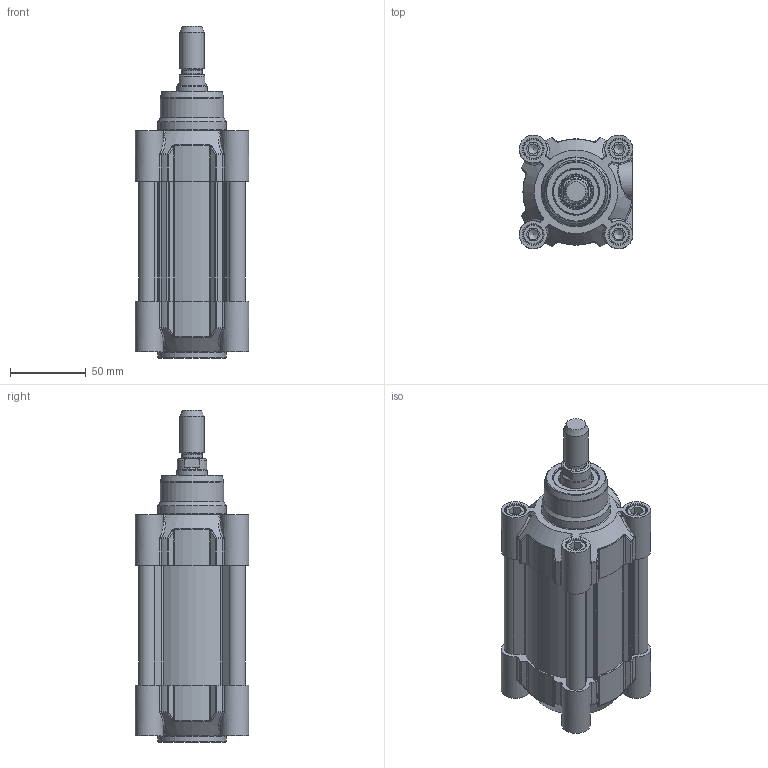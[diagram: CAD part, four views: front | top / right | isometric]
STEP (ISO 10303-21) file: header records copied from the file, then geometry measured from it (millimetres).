
FILE_DESCRIPTION(/* description */ ('CILINDRO D.E. MAGNETICO AMMORTIZZATO ISO 15552'),/* implementation_level */ '2;1');
FILE_NAME(/* name */ 'T:\Archivio Inventor\- 00 NUOVI STP PER SITO CON STELO CHE SI MUOVE\SERIE H - U\SERIE HDM\HDM063 - TUBO NUOVO\HDM063.025.GS.M.stp',/* time_stamp */ '2018-07-30T11:26:42+02:00',/* author */ ('carlo.corazza'),/* organization */ (''),/* preprocessor_version */ 'ST-DEVELOPER v16.5',/* originating_system */ 'Autodesk Inventor 2017',/* authorisation */ '');
FILE_SCHEMA (('AUTOMOTIVE_DESIGN { 1 0 10303 214 3 1 1 }'));
Length unit declared in the file: millimetre
Products named in the file (5): HDM063.025.GS.M; TP; TA; STELO-025; CORPO-025
Assembly tree (4 placements, depth 2):
  HDM063.025.GS.M
    TP
    TA
    STELO-025
    CORPO-025
Bounding box: 75 x 75 x 219 mm (x, y, z)
Volume: 405525.2 mm3; surface area: 155549.9 mm2
Topology: 4 solids, 27 shells, 1241 faces, 2936 edges, 1818 vertices
Faces by surface type: plane 368, cylinder 297, bspline 288, torus 108, cone 106, sphere 74
Full cylindrical faces by diameter (mm): 3 x2, 3.4 x2, 4.8 x2, 5.25 x2, 6.647 x8, 8 x8, 8.3 x12, 9.8 x4, 9.9 x2, 10 x6, 12 x3, 13 x8, 13.3 x8, 13.5 x1, 14.95 x2, 16 x1, 19.5 x1, 20 x1, 20.8 x1, 20.847 x1, 24 x1, 26 x2, 30 x3, 42 x1, 45 x2, 63 x1
Entity records: 40768 total; most frequent: CARTESIAN_POINT 13071, ORIENTED_EDGE 5326, DIRECTION 5100, EDGE_CURVE 2663, AXIS2_PLACEMENT_3D 2037, VERTEX_POINT 1763, EDGE_LOOP 1576, STYLED_ITEM 1245
